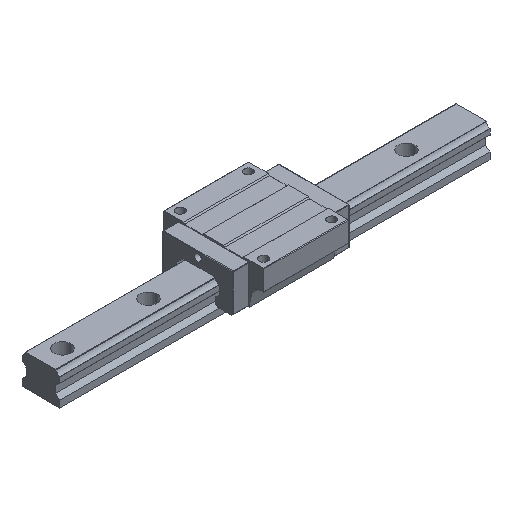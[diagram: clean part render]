
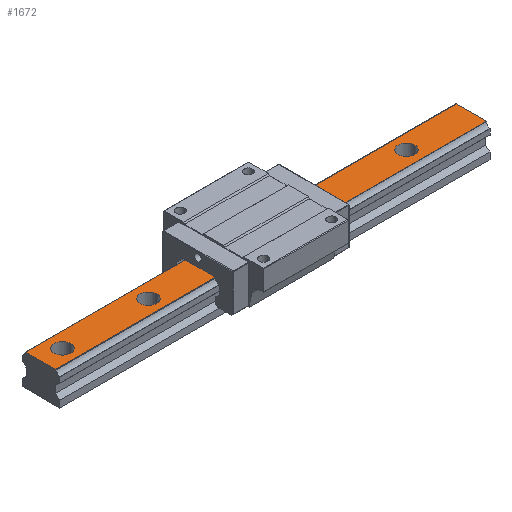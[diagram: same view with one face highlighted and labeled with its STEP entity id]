
A CAD part, isometric view. The second image highlights one B-rep face of the part: STEP entity #1672.
In plain terms, the highlighted planar face has unit normal (0, 0, 1).
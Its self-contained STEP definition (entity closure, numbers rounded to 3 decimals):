
#17 = CIRCLE ( 'NONE', #2000, 11.5 ) ;
#27 = VERTEX_POINT ( 'NONE', #4096 ) ;
#61 = EDGE_LOOP ( 'NONE', ( #1303, #1321 ) ) ;
#75 = EDGE_LOOP ( 'NONE', ( #3429, #1838, #968, #1133 ) ) ;
#96 = DIRECTION ( 'NONE',  ( 0., 0., -1. ) ) ;
#160 = DIRECTION ( 'NONE',  ( -1., 0., 0. ) ) ;
#196 = DIRECTION ( 'NONE',  ( 0., -1., 0. ) ) ;
#216 = VECTOR ( 'NONE', #1265, 1000. ) ;
#302 = CIRCLE ( 'NONE', #3181, 11.5 ) ;
#331 = CARTESIAN_POINT ( 'NONE',  ( 210., 0., 44. ) ) ;
#334 = CARTESIAN_POINT ( 'NONE',  ( -300., 20.932, 44. ) ) ;
#354 = AXIS2_PLACEMENT_3D ( 'NONE', #331, #1908, #3480 ) ;
#381 = DIRECTION ( 'NONE',  ( -1., 0., 0. ) ) ;
#404 = EDGE_CURVE ( 'NONE', #3305, #3952, #774, .T. ) ;
#427 = EDGE_CURVE ( 'NONE', #1402, #2403, #4665, .T. ) ;
#462 = DIRECTION ( 'NONE',  ( 0., 0., -1. ) ) ;
#471 = DIRECTION ( 'NONE',  ( 0., 0., -1. ) ) ;
#510 = CARTESIAN_POINT ( 'NONE',  ( -41.5, 0., 44. ) ) ;
#522 = AXIS2_PLACEMENT_3D ( 'NONE', #4135, #581, #2170 ) ;
#572 = PLANE ( 'NONE',  #4091 ) ;
#581 = DIRECTION ( 'NONE',  ( 0., 0., -1. ) ) ;
#596 = AXIS2_PLACEMENT_3D ( 'NONE', #3486, #5063, #1521 ) ;
#655 = CARTESIAN_POINT ( 'NONE',  ( 221.5, 0., 44. ) ) ;
#677 = CARTESIAN_POINT ( 'NONE',  ( -30., 0., 44. ) ) ;
#721 = CARTESIAN_POINT ( 'NONE',  ( -138.5, 0., 44. ) ) ;
#774 = CIRCLE ( 'NONE', #354, 11.5 ) ;
#789 = AXIS2_PLACEMENT_3D ( 'NONE', #4001, #462, #2043 ) ;
#968 = ORIENTED_EDGE ( 'NONE', *, *, #1954, .T. ) ;
#977 = FACE_BOUND ( 'NONE', #4244, .T. ) ;
#1087 = VERTEX_POINT ( 'NONE', #510 ) ;
#1104 = VERTEX_POINT ( 'NONE', #2509 ) ;
#1130 = CARTESIAN_POINT ( 'NONE',  ( 300., 21.2, 44. ) ) ;
#1133 = ORIENTED_EDGE ( 'NONE', *, *, #3377, .T. ) ;
#1181 = AXIS2_PLACEMENT_3D ( 'NONE', #3627, #96, #1671 ) ;
#1239 = CARTESIAN_POINT ( 'NONE',  ( -150., 0., 44. ) ) ;
#1265 = DIRECTION ( 'NONE',  ( 0., -1., 0. ) ) ;
#1293 = DIRECTION ( 'NONE',  ( 1., 0., 0. ) ) ;
#1303 = ORIENTED_EDGE ( 'NONE', *, *, #1922, .T. ) ;
#1321 = ORIENTED_EDGE ( 'NONE', *, *, #2299, .T. ) ;
#1352 = FACE_OUTER_BOUND ( 'NONE', #75, .T. ) ;
#1401 = VERTEX_POINT ( 'NONE', #334 ) ;
#1402 = VERTEX_POINT ( 'NONE', #1912 ) ;
#1464 = CARTESIAN_POINT ( 'NONE',  ( -270., 0., 44. ) ) ;
#1466 = EDGE_CURVE ( 'NONE', #1402, #1401, #2341, .T. ) ;
#1521 = DIRECTION ( 'NONE',  ( -1., 0., 0. ) ) ;
#1671 = DIRECTION ( 'NONE',  ( -1., 0., 0. ) ) ;
#1672 = ADVANCED_FACE ( 'NONE', ( #1352, #2939, #4510, #977, #2549, #4122 ), #572, .F. ) ;
#1678 = CIRCLE ( 'NONE', #522, 11.5 ) ;
#1838 = ORIENTED_EDGE ( 'NONE', *, *, #1466, .T. ) ;
#1908 = DIRECTION ( 'NONE',  ( 0., 0., -1. ) ) ;
#1912 = CARTESIAN_POINT ( 'NONE',  ( 300., 20.932, 44. ) ) ;
#1916 = CARTESIAN_POINT ( 'NONE',  ( -281.5, 0., 44. ) ) ;
#1922 = EDGE_CURVE ( 'NONE', #4799, #3120, #4180, .T. ) ;
#1934 = VECTOR ( 'NONE', #381, 1000. ) ;
#1954 = EDGE_CURVE ( 'NONE', #1401, #3037, #3232, .T. ) ;
#1971 = ORIENTED_EDGE ( 'NONE', *, *, #4333, .T. ) ;
#2000 = AXIS2_PLACEMENT_3D ( 'NONE', #677, #2267, #3847 ) ;
#2043 = DIRECTION ( 'NONE',  ( -1., 0., 0. ) ) ;
#2049 = CARTESIAN_POINT ( 'NONE',  ( 198.5, 0., 44. ) ) ;
#2053 = DIRECTION ( 'NONE',  ( -1., 0., 0. ) ) ;
#2094 = VERTEX_POINT ( 'NONE', #3886 ) ;
#2131 = CARTESIAN_POINT ( 'NONE',  ( 210., 0., 44. ) ) ;
#2161 = CARTESIAN_POINT ( 'NONE',  ( 300., 0., 44. ) ) ;
#2170 = DIRECTION ( 'NONE',  ( -1., 0., 0. ) ) ;
#2189 = CIRCLE ( 'NONE', #1181, 11.5 ) ;
#2248 = EDGE_CURVE ( 'NONE', #3618, #27, #3922, .T. ) ;
#2267 = DIRECTION ( 'NONE',  ( 0., 0., -1. ) ) ;
#2299 = EDGE_CURVE ( 'NONE', #3120, #4799, #2189, .T. ) ;
#2341 = LINE ( 'NONE', #3920, #1934 ) ;
#2403 = VERTEX_POINT ( 'NONE', #2952 ) ;
#2406 = CARTESIAN_POINT ( 'NONE',  ( 101.5, 0., 44. ) ) ;
#2418 = EDGE_CURVE ( 'NONE', #1104, #1087, #1678, .T. ) ;
#2436 = AXIS2_PLACEMENT_3D ( 'NONE', #1464, #3043, #4610 ) ;
#2501 = CIRCLE ( 'NONE', #3980, 11.5 ) ;
#2509 = CARTESIAN_POINT ( 'NONE',  ( -18.5, 0., 44. ) ) ;
#2549 = FACE_BOUND ( 'NONE', #4976, .T. ) ;
#2612 = EDGE_CURVE ( 'NONE', #3609, #2094, #3496, .T. ) ;
#2714 = DIRECTION ( 'NONE',  ( 0., -1., 0. ) ) ;
#2742 = ORIENTED_EDGE ( 'NONE', *, *, #3009, .T. ) ;
#2815 = DIRECTION ( 'NONE',  ( 0., 0., -1. ) ) ;
#2939 = FACE_BOUND ( 'NONE', #4392, .T. ) ;
#2952 = CARTESIAN_POINT ( 'NONE',  ( 300., -20.932, 44. ) ) ;
#3009 = EDGE_CURVE ( 'NONE', #1087, #1104, #17, .T. ) ;
#3037 = VERTEX_POINT ( 'NONE', #4639 ) ;
#3043 = DIRECTION ( 'NONE',  ( 0., 0., -1. ) ) ;
#3107 = AXIS2_PLACEMENT_3D ( 'NONE', #4014, #471, #2053 ) ;
#3120 = VERTEX_POINT ( 'NONE', #2406 ) ;
#3135 = EDGE_CURVE ( 'NONE', #2094, #3609, #2501, .T. ) ;
#3181 = AXIS2_PLACEMENT_3D ( 'NONE', #2131, #3695, #160 ) ;
#3232 = LINE ( 'NONE', #4808, #216 ) ;
#3233 = VECTOR ( 'NONE', #2714, 1000. ) ;
#3259 = LINE ( 'NONE', #4836, #4472 ) ;
#3305 = VERTEX_POINT ( 'NONE', #2049 ) ;
#3377 = EDGE_CURVE ( 'NONE', #3037, #2403, #3259, .T. ) ;
#3409 = ORIENTED_EDGE ( 'NONE', *, *, #2248, .T. ) ;
#3429 = ORIENTED_EDGE ( 'NONE', *, *, #427, .F. ) ;
#3480 = DIRECTION ( 'NONE',  ( -1., 0., 0. ) ) ;
#3486 = CARTESIAN_POINT ( 'NONE',  ( -150., 0., 44. ) ) ;
#3496 = CIRCLE ( 'NONE', #596, 11.5 ) ;
#3591 = ORIENTED_EDGE ( 'NONE', *, *, #3135, .T. ) ;
#3609 = VERTEX_POINT ( 'NONE', #721 ) ;
#3618 = VERTEX_POINT ( 'NONE', #1916 ) ;
#3627 = CARTESIAN_POINT ( 'NONE',  ( 90., 0., 44. ) ) ;
#3689 = ORIENTED_EDGE ( 'NONE', *, *, #2612, .T. ) ;
#3695 = DIRECTION ( 'NONE',  ( 0., 0., -1. ) ) ;
#3726 = DIRECTION ( 'NONE',  ( 0., 0., -1. ) ) ;
#3847 = DIRECTION ( 'NONE',  ( -1., 0., 0. ) ) ;
#3866 = CARTESIAN_POINT ( 'NONE',  ( 78.5, 0., 44. ) ) ;
#3886 = CARTESIAN_POINT ( 'NONE',  ( -161.5, 0., 44. ) ) ;
#3920 = CARTESIAN_POINT ( 'NONE',  ( 300., 20.932, 44. ) ) ;
#3922 = CIRCLE ( 'NONE', #789, 11.5 ) ;
#3952 = VERTEX_POINT ( 'NONE', #655 ) ;
#3980 = AXIS2_PLACEMENT_3D ( 'NONE', #1239, #2815, #4391 ) ;
#4001 = CARTESIAN_POINT ( 'NONE',  ( -270., 0., 44. ) ) ;
#4014 = CARTESIAN_POINT ( 'NONE',  ( 90., 0., 44. ) ) ;
#4091 = AXIS2_PLACEMENT_3D ( 'NONE', #2161, #3726, #196 ) ;
#4096 = CARTESIAN_POINT ( 'NONE',  ( -258.5, 0., 44. ) ) ;
#4111 = ORIENTED_EDGE ( 'NONE', *, *, #2418, .T. ) ;
#4122 = FACE_BOUND ( 'NONE', #4141, .T. ) ;
#4124 = ORIENTED_EDGE ( 'NONE', *, *, #4628, .T. ) ;
#4135 = CARTESIAN_POINT ( 'NONE',  ( -30., 0., 44. ) ) ;
#4141 = EDGE_LOOP ( 'NONE', ( #3409, #1971 ) ) ;
#4180 = CIRCLE ( 'NONE', #3107, 11.5 ) ;
#4244 = EDGE_LOOP ( 'NONE', ( #2742, #4111 ) ) ;
#4333 = EDGE_CURVE ( 'NONE', #27, #3618, #4666, .T. ) ;
#4391 = DIRECTION ( 'NONE',  ( -1., 0., 0. ) ) ;
#4392 = EDGE_LOOP ( 'NONE', ( #5046, #4124 ) ) ;
#4472 = VECTOR ( 'NONE', #1293, 1000. ) ;
#4510 = FACE_BOUND ( 'NONE', #61, .T. ) ;
#4610 = DIRECTION ( 'NONE',  ( -1., 0., 0. ) ) ;
#4628 = EDGE_CURVE ( 'NONE', #3952, #3305, #302, .T. ) ;
#4639 = CARTESIAN_POINT ( 'NONE',  ( -300., -20.932, 44. ) ) ;
#4665 = LINE ( 'NONE', #1130, #3233 ) ;
#4666 = CIRCLE ( 'NONE', #2436, 11.5 ) ;
#4799 = VERTEX_POINT ( 'NONE', #3866 ) ;
#4808 = CARTESIAN_POINT ( 'NONE',  ( -300., 0., 44. ) ) ;
#4836 = CARTESIAN_POINT ( 'NONE',  ( 300., -20.932, 44. ) ) ;
#4976 = EDGE_LOOP ( 'NONE', ( #3591, #3689 ) ) ;
#5046 = ORIENTED_EDGE ( 'NONE', *, *, #404, .T. ) ;
#5063 = DIRECTION ( 'NONE',  ( 0., 0., -1. ) ) ;
